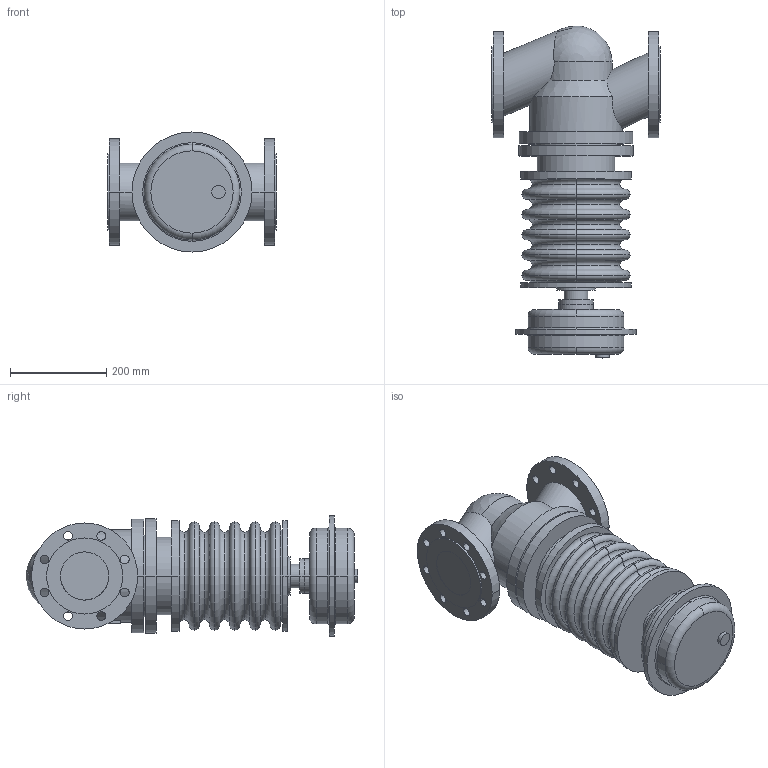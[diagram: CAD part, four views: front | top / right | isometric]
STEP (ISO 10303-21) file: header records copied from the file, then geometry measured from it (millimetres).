
FILE_DESCRIPTION( ( '' ), '1' );
FILE_NAME( 'F:/DE-SHS/TB/OR/04-Sonstiges/daten/files_3d/PREDU/PREDU-PN16-DMA250/c000005359.stp', '2014-06-03T11:13:39', ( '' ), ( '' ), ' ', ' ', ' ' );
FILE_SCHEMA( ( 'CONFIG_CONTROL_DESIGN' ) );
Length unit declared in the file: millimetre
Products named in the file (2): 1; 2
Bounding box: 350 x 688.65 x 249 mm (x, y, z)
Volume: 21936800.9 mm3; surface area: 947055.4 mm2
Topology: 2 solids, 2 shells, 173 faces, 418 edges, 270 vertices
Faces by surface type: cylinder 80, torus 50, plane 40, cone 2, sphere 1
Entity records: 5844 total; most frequent: CARTESIAN_POINT 1398, DIRECTION 1041, ORIENTED_EDGE 832, AXIS2_PLACEMENT_3D 464, EDGE_CURVE 416, CIRCLE 283, VERTEX_POINT 270, EDGE_LOOP 228
